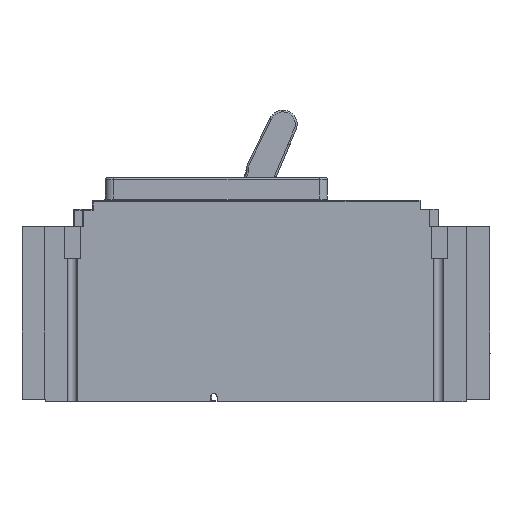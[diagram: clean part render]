
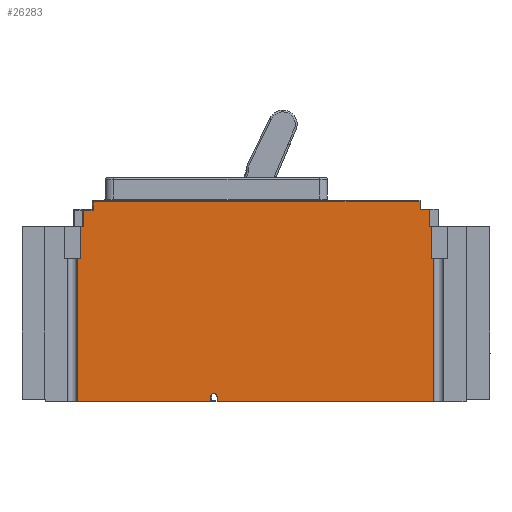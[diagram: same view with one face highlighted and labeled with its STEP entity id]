
A CAD part, left-side view. The second image highlights one B-rep face of the part: STEP entity #26283.
In plain terms, the highlighted planar face has unit normal (-1, 0, 0).
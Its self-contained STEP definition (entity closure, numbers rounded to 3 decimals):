
#78=DIRECTION('',(0.,-1.,0.));
#79=VECTOR('',#78,118.198);
#80=CARTESIAN_POINT('',(-0.008,148.75,0.));
#81=LINE('',#80,#79);
#328=DIRECTION('',(0.,-1.,0.));
#329=VECTOR('',#328,72.713);
#330=CARTESIAN_POINT('',(-0.001,224.963,0.));
#331=LINE('',#330,#329);
#4539=DIRECTION('',(0.,1.,0.));
#4540=VECTOR('',#4539,40.);
#4541=CARTESIAN_POINT('',(-0.019,39.009,109.2));
#4542=LINE('',#4541,#4540);
#4543=DIRECTION('',(0.,0.,1.));
#4544=VECTOR('',#4543,0.3);
#4545=CARTESIAN_POINT('',(-0.019,39.009,109.2));
#4546=LINE('',#4545,#4544);
#4547=DIRECTION('',(0.,0.,-1.));
#4548=VECTOR('',#4547,4.5);
#4549=CARTESIAN_POINT('',(-0.019,38.009,109.5));
#4550=LINE('',#4549,#4548);
#4551=DIRECTION('',(0.,-1.,0.));
#4552=VECTOR('',#4551,5.151);
#4553=CARTESIAN_POINT('',(-0.019,38.009,105.));
#4554=LINE('',#4553,#4552);
#4555=DIRECTION('',(0.,0.,1.));
#4556=VECTOR('',#4555,9.5);
#4557=CARTESIAN_POINT('',(-0.019,32.859,95.5));
#4558=LINE('',#4557,#4556);
#4559=DIRECTION('',(0.,1.,0.));
#4560=VECTOR('',#4559,0.85);
#4561=CARTESIAN_POINT('',(-0.019,32.009,95.5));
#4562=LINE('',#4561,#4560);
#4563=DIRECTION('',(0.,0.,1.));
#4564=VECTOR('',#4563,17.5);
#4565=CARTESIAN_POINT('',(-0.019,32.009,78.));
#4566=LINE('',#4565,#4564);
#4567=DIRECTION('',(0.,1.,0.));
#4568=VECTOR('',#4567,1.456);
#4569=CARTESIAN_POINT('',(-0.019,30.552,78.));
#4570=LINE('',#4569,#4568);
#4571=DIRECTION('',(0.,0.,1.));
#4572=VECTOR('',#4571,2.918);
#4573=CARTESIAN_POINT('',(-0.008,148.75,0.));
#4574=LINE('',#4573,#4572);
#4575=DIRECTION('',(0.,0.,1.));
#4576=VECTOR('',#4575,2.918);
#4577=CARTESIAN_POINT('',(-0.008,152.25,0.));
#4578=LINE('',#4577,#4576);
#4579=DIRECTION('',(0.,0.,1.));
#4580=VECTOR('',#4579,78.);
#4581=CARTESIAN_POINT('',(-0.001,224.963,0.));
#4582=LINE('',#4581,#4580);
#4583=DIRECTION('',(0.,-1.,0.));
#4584=VECTOR('',#4583,1.954);
#4585=CARTESIAN_POINT('',(-0.001,224.963,78.));
#4586=LINE('',#4585,#4584);
#4587=DIRECTION('',(0.,0.,1.));
#4588=VECTOR('',#4587,17.5);
#4589=CARTESIAN_POINT('',(-0.002,223.009,78.));
#4590=LINE('',#4589,#4588);
#4591=DIRECTION('',(0.,0.,1.));
#4592=VECTOR('',#4591,9.);
#4593=CARTESIAN_POINT('',(-0.002,221.659,95.5));
#4594=LINE('',#4593,#4592);
#4595=DIRECTION('',(0.,1.,0.));
#4596=VECTOR('',#4595,5.443);
#4597=CARTESIAN_POINT('',(-0.002,216.216,104.5));
#4598=LINE('',#4597,#4596);
#4599=DIRECTION('',(0.,0.,-1.));
#4600=VECTOR('',#4599,4.5);
#4601=CARTESIAN_POINT('',(-0.002,216.216,109.));
#4602=LINE('',#4601,#4600);
#4603=DIRECTION('',(0.,1.,0.));
#4604=VECTOR('',#4603,136.107);
#4605=CARTESIAN_POINT('',(-0.015,80.109,109.));
#4606=LINE('',#4605,#4604);
#4607=DIRECTION('',(0.,0.,1.));
#4608=VECTOR('',#4607,0.201);
#4609=CARTESIAN_POINT('',(-0.015,80.109,109.));
#4610=LINE('',#4609,#4608);
#4689=DIRECTION('',(0.,1.,0.001));
#4690=VECTOR('',#4689,1.099);
#4691=CARTESIAN_POINT('',(-0.015,79.009,
109.2));
#4692=LINE('',#4691,#4690);
#4738=CARTESIAN_POINT('',(-0.002,216.216,104.5));
#4823=DIRECTION('',(0.,1.,0.));
#4824=VECTOR('',#4823,1.35);
#4825=CARTESIAN_POINT('',(-0.002,221.659,95.5));
#4826=LINE('',#4825,#4824);
#7726=DIRECTION('',(0.,1.,0.));
#7727=VECTOR('',#7726,1.);
#7728=CARTESIAN_POINT('',(-0.019,38.009,109.5));
#7729=LINE('',#7728,#7727);
#14552=CARTESIAN_POINT('',(-0.008,150.5,2.918));
#14553=DIRECTION('',(1.,0.,0.));
#14554=DIRECTION('',(0.,1.,0.));
#14555=AXIS2_PLACEMENT_3D('',#14552,#14553,#14554);
#15152=DIRECTION('',(0.,0.,1.));
#15153=VECTOR('',#15152,78.);
#15154=CARTESIAN_POINT('',(-0.019,30.552,0.));
#15155=LINE('',#15154,#15153);
#15731=CARTESIAN_POINT('',(-0.001,224.963,0.));
#15733=VERTEX_POINT('',#15731);
#15735=CARTESIAN_POINT('',(-0.019,30.552,0.));
#15736=VERTEX_POINT('',#15735);
#15756=CARTESIAN_POINT('',(-0.019,38.009,105.));
#15758=VERTEX_POINT('',#15756);
#16311=CARTESIAN_POINT('',(-0.001,224.963,78.));
#16312=VERTEX_POINT('',#16311);
#16313=CARTESIAN_POINT('',(-0.002,223.009,78.));
#16314=VERTEX_POINT('',#16313);
#16315=CARTESIAN_POINT('',(-0.002,223.009,95.5));
#16316=VERTEX_POINT('',#16315);
#16637=CARTESIAN_POINT('',(-0.008,148.75,0.));
#16639=VERTEX_POINT('',#16637);
#16645=CARTESIAN_POINT('',(-0.008,152.25,0.));
#16647=VERTEX_POINT('',#16645);
#16653=CARTESIAN_POINT('',(-0.008,148.75,2.918));
#16654=VERTEX_POINT('',#16653);
#16655=CARTESIAN_POINT('',(-0.008,152.25,2.918));
#16656=VERTEX_POINT('',#16655);
#17954=CARTESIAN_POINT('',(-0.019,38.009,109.5));
#17956=VERTEX_POINT('',#17954);
#18069=VERTEX_POINT('',#4738);
#18071=CARTESIAN_POINT('',(-0.002,221.659,104.5));
#18073=VERTEX_POINT('',#18071);
#18079=CARTESIAN_POINT('',(-0.002,221.659,95.5));
#18080=VERTEX_POINT('',#18079);
#18318=CARTESIAN_POINT('',(-0.002,216.216,109.));
#18320=VERTEX_POINT('',#18318);
#18326=CARTESIAN_POINT('',(-0.015,80.109,109.));
#18327=VERTEX_POINT('',#18326);
#18330=CARTESIAN_POINT('',(-0.015,80.109,
109.201));
#18331=VERTEX_POINT('',#18330);
#18368=CARTESIAN_POINT('',(-0.019,39.009,109.2));
#18369=CARTESIAN_POINT('',(-0.015,79.009,
109.2));
#18370=VERTEX_POINT('',#18368);
#18371=VERTEX_POINT('',#18369);
#18374=CARTESIAN_POINT('',(-0.019,39.009,109.5));
#18375=VERTEX_POINT('',#18374);
#19311=CARTESIAN_POINT('',(-0.019,32.859,95.5));
#19312=VERTEX_POINT('',#19311);
#20099=CARTESIAN_POINT('',(-0.019,32.009,78.));
#20100=VERTEX_POINT('',#20099);
#20180=CARTESIAN_POINT('',(-0.019,32.859,105.));
#20181=VERTEX_POINT('',#20180);
#20333=CARTESIAN_POINT('',(-0.019,30.552,78.));
#20334=VERTEX_POINT('',#20333);
#20335=CARTESIAN_POINT('',(-0.019,32.009,95.5));
#20336=VERTEX_POINT('',#20335);
#26230=CARTESIAN_POINT('',(-0.001,224.963,0.));
#26231=DIRECTION('',(-1.,0.,0.));
#26232=DIRECTION('',(0.,-1.,0.));
#26233=AXIS2_PLACEMENT_3D('',#26230,#26231,#26232);
#26234=PLANE('',#26233);
#26236=ORIENTED_EDGE('',*,*,#26235,.F.);
#26238=ORIENTED_EDGE('',*,*,#26237,.T.);
#26240=ORIENTED_EDGE('',*,*,#26239,.F.);
#26242=ORIENTED_EDGE('',*,*,#26241,.T.);
#26244=ORIENTED_EDGE('',*,*,#26243,.T.);
#26245=ORIENTED_EDGE('',*,*,#26222,.F.);
#26246=ORIENTED_EDGE('',*,*,#21884,.F.);
#26248=ORIENTED_EDGE('',*,*,#26247,.F.);
#26250=ORIENTED_EDGE('',*,*,#26249,.F.);
#26252=ORIENTED_EDGE('',*,*,#26251,.F.);
#26253=ORIENTED_EDGE('',*,*,#20463,.F.);
#26255=ORIENTED_EDGE('',*,*,#26254,.T.);
#26257=ORIENTED_EDGE('',*,*,#26256,.F.);
#26259=ORIENTED_EDGE('',*,*,#26258,.F.);
#26260=ORIENTED_EDGE('',*,*,#20627,.F.);
#26262=ORIENTED_EDGE('',*,*,#26261,.T.);
#26264=ORIENTED_EDGE('',*,*,#26263,.T.);
#26266=ORIENTED_EDGE('',*,*,#26265,.T.);
#26268=ORIENTED_EDGE('',*,*,#26267,.F.);
#26270=ORIENTED_EDGE('',*,*,#26269,.T.);
#26272=ORIENTED_EDGE('',*,*,#26271,.F.);
#26274=ORIENTED_EDGE('',*,*,#26273,.F.);
#26276=ORIENTED_EDGE('',*,*,#26275,.F.);
#26278=ORIENTED_EDGE('',*,*,#26277,.T.);
#26280=ORIENTED_EDGE('',*,*,#26279,.F.);
#26281=EDGE_LOOP('',(#26236,#26238,#26240,#26242,#26244,#26245,#26246,#26248,
#26250,#26252,#26253,#26255,#26257,#26259,#26260,#26262,#26264,#26266,#26268,
#26270,#26272,#26274,#26276,#26278,#26280));
#26282=FACE_OUTER_BOUND('',#26281,.F.);
#26283=ADVANCED_FACE('',(#26282),#26234,.T.);
#14556=CIRCLE('',#14555,1.75);
#20463=EDGE_CURVE('',#16639,#15736,#81,.T.);
#20627=EDGE_CURVE('',#15733,#16647,#331,.T.);
#21884=EDGE_CURVE('',#20336,#19312,#4562,.T.);
#26222=EDGE_CURVE('',#19312,#20181,#4558,.T.);
#26235=EDGE_CURVE('',#18370,#18371,#4542,.T.);
#26237=EDGE_CURVE('',#18370,#18375,#4546,.T.);
#26239=EDGE_CURVE('',#17956,#18375,#7729,.T.);
#26241=EDGE_CURVE('',#17956,#15758,#4550,.T.);
#26243=EDGE_CURVE('',#15758,#20181,#4554,.T.);
#26247=EDGE_CURVE('',#20100,#20336,#4566,.T.);
#26249=EDGE_CURVE('',#20334,#20100,#4570,.T.);
#26251=EDGE_CURVE('',#15736,#20334,#15155,.T.);
#26254=EDGE_CURVE('',#16639,#16654,#4574,.T.);
#26256=EDGE_CURVE('',#16656,#16654,#14556,.T.);
#26258=EDGE_CURVE('',#16647,#16656,#4578,.T.);
#26261=EDGE_CURVE('',#15733,#16312,#4582,.T.);
#26263=EDGE_CURVE('',#16312,#16314,#4586,.T.);
#26265=EDGE_CURVE('',#16314,#16316,#4590,.T.);
#26267=EDGE_CURVE('',#18080,#16316,#4826,.T.);
#26269=EDGE_CURVE('',#18080,#18073,#4594,.T.);
#26271=EDGE_CURVE('',#18069,#18073,#4598,.T.);
#26273=EDGE_CURVE('',#18320,#18069,#4602,.T.);
#26275=EDGE_CURVE('',#18327,#18320,#4606,.T.);
#26277=EDGE_CURVE('',#18327,#18331,#4610,.T.);
#26279=EDGE_CURVE('',#18371,#18331,#4692,.T.);
